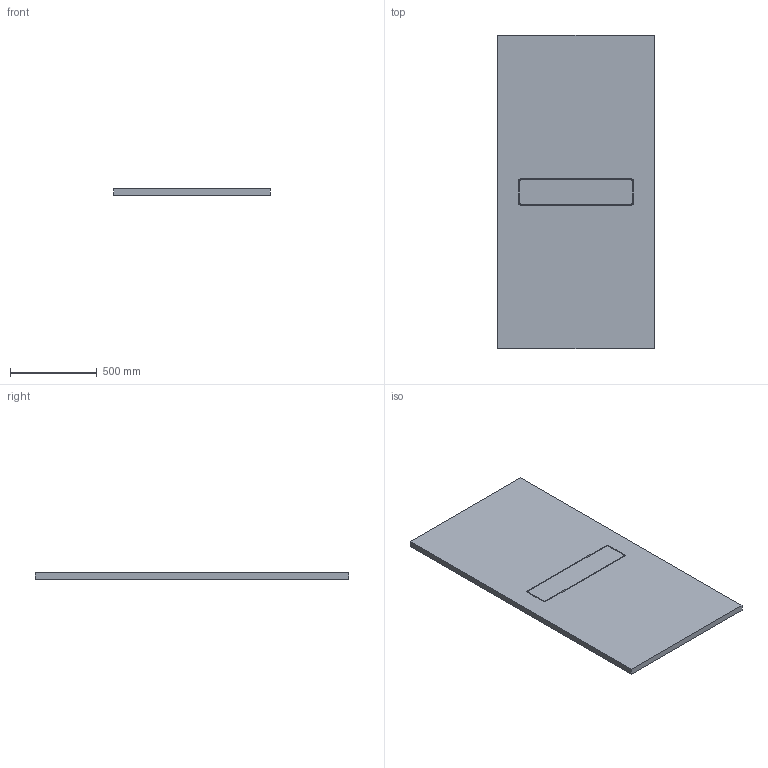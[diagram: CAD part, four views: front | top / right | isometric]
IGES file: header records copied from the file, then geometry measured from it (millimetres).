
Global section: file name: D:\Desktop\GIOVANNI\SCHEDE PRODOTTO\PIATTI DOCCIA\VERVE\3D\PIATTO DOCCIA_VERVE.igs; native system: Rhinoceros ( Jan 17 2018 ); preprocessor: Trout Lake IGES 012 Jan 17 2018; date: 230525.094719; units: millimetre
Bounding box: 900 x 1800 x 35 mm (x, y, z)
Surface area: 3487853.1 mm2 (no closed solid volume)
Topology: 0 solids, 0 shells, 24 faces, 120 edges, 120 vertices
Faces by surface type: bspline 24
